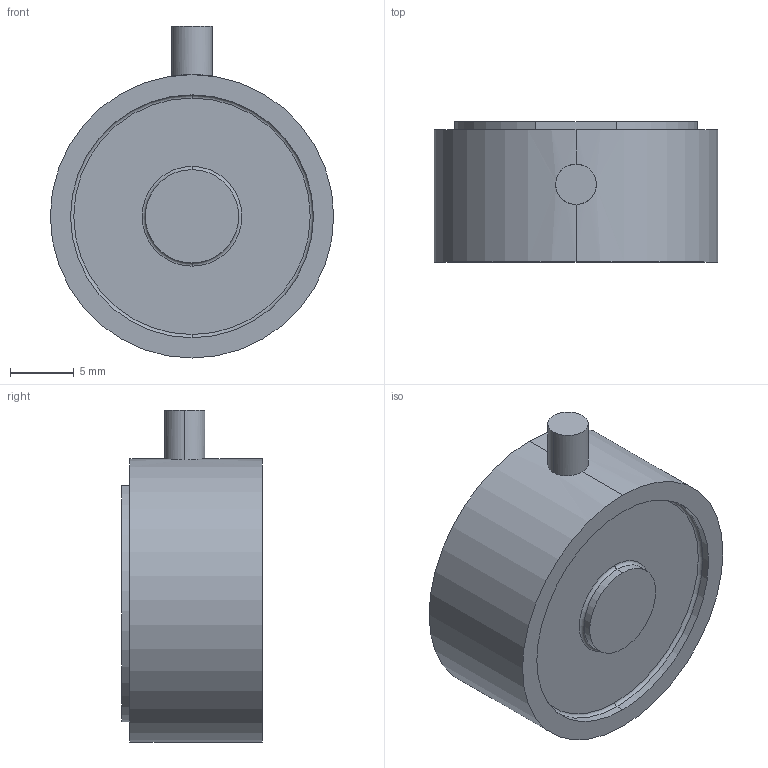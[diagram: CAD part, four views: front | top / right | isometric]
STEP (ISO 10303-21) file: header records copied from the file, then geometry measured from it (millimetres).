
FILE_DESCRIPTION (( 'STEP AP214' ), '1' );
FILE_NAME ('FINAL ASBY SS1497-3KLB.STEP', '2024-08-12T14:35:08', ( '' ), ( '' ), 'SwSTEP 2.0', 'SolidWorks 2008', '' );
FILE_SCHEMA (( 'AUTOMOTIVE_DESIGN' ));
Length unit declared in the file: inch
Products named in the file (1): FINAL ASBY SS1497-3KLB
Bounding box: 22.23 x 11 x 26.04 mm (x, y, z)
Volume: 2213 mm3; surface area: 2857.4 mm2
Topology: 1 solids, 2 shells, 48 faces, 108 edges, 68 vertices
Faces by surface type: cylinder 22, plane 14, torus 12
Entity records: 1525 total; most frequent: CARTESIAN_POINT 383, DIRECTION 256, ORIENTED_EDGE 216, AXIS2_PLACEMENT_3D 111, EDGE_CURVE 108, VERTEX_POINT 68, CIRCLE 62, EDGE_LOOP 56
